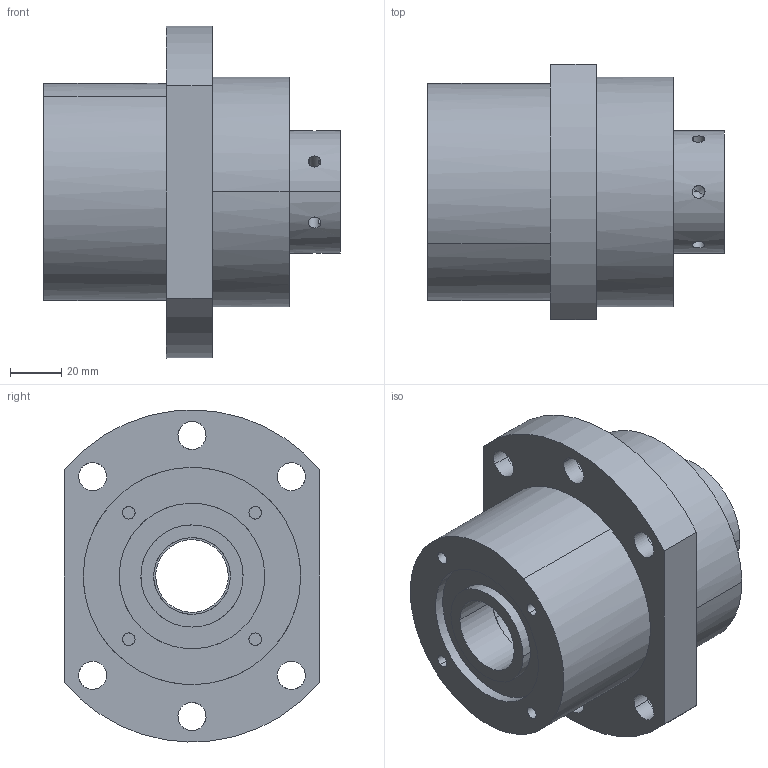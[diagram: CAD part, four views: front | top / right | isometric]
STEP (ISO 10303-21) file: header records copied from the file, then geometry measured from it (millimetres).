
FILE_DESCRIPTION(('CATIA V5 STEP Exchange'),'2;1');
FILE_NAME('D:\서포트 완성도면\WBK\WBK30DFT.stp','2014-03-26T10:22:57+00:00',('none'),('none'),'CATIA Version 5 Release 18 GA (IN-10)','CATIA V5 STEP AP203','none');
FILE_SCHEMA(('CONFIG_CONTROL_DESIGN'));
Length unit declared in the file: millimetre
Products named in the file (1): WBK30DFT
Assembly tree (4 placements, depth 2):
  WBK30DFT
    #56
    #3590  x2
    #3866
Bounding box: 116 x 100 x 129.96 mm (x, y, z)
Volume: 593439.2 mm3; surface area: 84653.9 mm2
Topology: 4 solids, 4 shells, 146 faces, 360 edges, 230 vertices
Faces by surface type: cylinder 92, plane 30, cone 24
Entity records: 6207 total; most frequent: CARTESIAN_POINT 3141, ORIENTED_EDGE 672, DIRECTION 443, EDGE_CURVE 336, VERTEX_POINT 222, AXIS2_PLACEMENT_3D 194, EDGE_LOOP 190, B_SPLINE_CURVE_WITH_KNOTS 167
